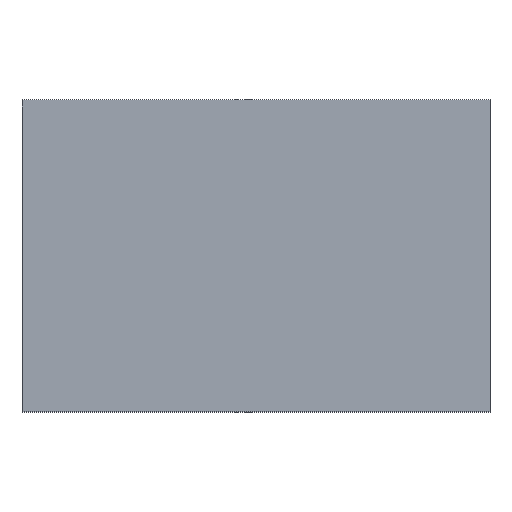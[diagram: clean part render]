
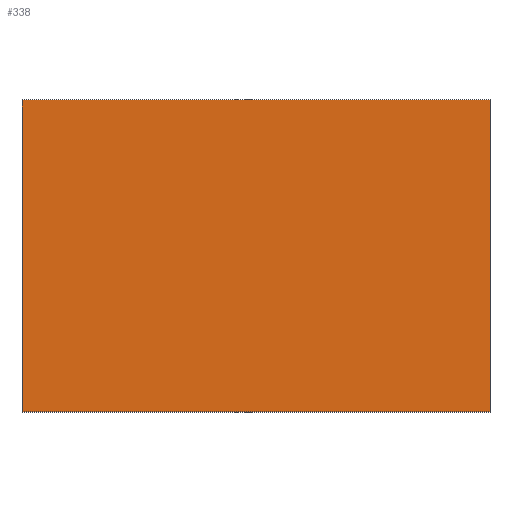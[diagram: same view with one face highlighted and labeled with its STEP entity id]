
A CAD part, top view. The second image highlights one B-rep face of the part: STEP entity #338.
In plain terms, the highlighted planar face has unit normal (0, 0, 1).
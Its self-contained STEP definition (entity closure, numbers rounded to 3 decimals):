
#24 = VERTEX_POINT('',#25);
#25 = CARTESIAN_POINT('',(-8.,-10.,15.6));
#32 = PLANE('',#33);
#33 = AXIS2_PLACEMENT_3D('',#34,#35,#36);
#34 = CARTESIAN_POINT('',(-8.,-10.,14.));
#35 = DIRECTION('',(1.,0.,0.));
#36 = DIRECTION('',(0.,0.,1.));
#44 = PLANE('',#45);
#45 = AXIS2_PLACEMENT_3D('',#46,#47,#48);
#46 = CARTESIAN_POINT('',(-8.,-10.,14.));
#47 = DIRECTION('',(0.,1.,0.));
#48 = DIRECTION('',(0.,0.,1.));
#85 = VERTEX_POINT('',#86);
#86 = CARTESIAN_POINT('',(-8.,10.,15.6));
#100 = PLANE('',#101);
#101 = AXIS2_PLACEMENT_3D('',#102,#103,#104);
#102 = CARTESIAN_POINT('',(-8.,10.,14.));
#103 = DIRECTION('',(0.,1.,0.));
#104 = DIRECTION('',(0.,0.,1.));
#112 = EDGE_CURVE('',#24,#85,#113,.T.);
#113 = SURFACE_CURVE('',#114,(#118,#125),.PCURVE_S1.);
#114 = LINE('',#115,#116);
#115 = CARTESIAN_POINT('',(-8.,-10.,15.6));
#116 = VECTOR('',#117,1.);
#117 = DIRECTION('',(0.,1.,0.));
#118 = PCURVE('',#32,#119);
#119 = DEFINITIONAL_REPRESENTATION('',(#120),#124);
#120 = LINE('',#121,#122);
#121 = CARTESIAN_POINT('',(1.6,0.));
#122 = VECTOR('',#123,1.);
#123 = DIRECTION('',(0.,-1.));
#124 = ( GEOMETRIC_REPRESENTATION_CONTEXT(2) 
PARAMETRIC_REPRESENTATION_CONTEXT() REPRESENTATION_CONTEXT('2D SPACE',''
  ) );
#125 = PCURVE('',#126,#131);
#126 = PLANE('',#127);
#127 = AXIS2_PLACEMENT_3D('',#128,#129,#130);
#128 = CARTESIAN_POINT('',(-8.,-10.,15.6));
#129 = DIRECTION('',(0.,0.,1.));
#130 = DIRECTION('',(1.,0.,0.));
#131 = DEFINITIONAL_REPRESENTATION('',(#132),#136);
#132 = LINE('',#133,#134);
#133 = CARTESIAN_POINT('',(0.,0.));
#134 = VECTOR('',#135,1.);
#135 = DIRECTION('',(0.,1.));
#136 = ( GEOMETRIC_REPRESENTATION_CONTEXT(2) 
PARAMETRIC_REPRESENTATION_CONTEXT() REPRESENTATION_CONTEXT('2D SPACE',''
  ) );
#144 = VERTEX_POINT('',#145);
#145 = CARTESIAN_POINT('',(22.,-10.,15.6));
#152 = PLANE('',#153);
#153 = AXIS2_PLACEMENT_3D('',#154,#155,#156);
#154 = CARTESIAN_POINT('',(22.,-10.,14.));
#155 = DIRECTION('',(1.,0.,0.));
#156 = DIRECTION('',(0.,0.,1.));
#195 = VERTEX_POINT('',#196);
#196 = CARTESIAN_POINT('',(22.,10.,15.6));
#217 = EDGE_CURVE('',#144,#195,#218,.T.);
#218 = SURFACE_CURVE('',#219,(#223,#230),.PCURVE_S1.);
#219 = LINE('',#220,#221);
#220 = CARTESIAN_POINT('',(22.,-10.,15.6));
#221 = VECTOR('',#222,1.);
#222 = DIRECTION('',(0.,1.,0.));
#223 = PCURVE('',#152,#224);
#224 = DEFINITIONAL_REPRESENTATION('',(#225),#229);
#225 = LINE('',#226,#227);
#226 = CARTESIAN_POINT('',(1.6,0.));
#227 = VECTOR('',#228,1.);
#228 = DIRECTION('',(0.,-1.));
#229 = ( GEOMETRIC_REPRESENTATION_CONTEXT(2) 
PARAMETRIC_REPRESENTATION_CONTEXT() REPRESENTATION_CONTEXT('2D SPACE',''
  ) );
#230 = PCURVE('',#126,#231);
#231 = DEFINITIONAL_REPRESENTATION('',(#232),#236);
#232 = LINE('',#233,#234);
#233 = CARTESIAN_POINT('',(30.,0.));
#234 = VECTOR('',#235,1.);
#235 = DIRECTION('',(0.,1.));
#236 = ( GEOMETRIC_REPRESENTATION_CONTEXT(2) 
PARAMETRIC_REPRESENTATION_CONTEXT() REPRESENTATION_CONTEXT('2D SPACE',''
  ) );
#263 = EDGE_CURVE('',#24,#144,#264,.T.);
#264 = SURFACE_CURVE('',#265,(#269,#276),.PCURVE_S1.);
#265 = LINE('',#266,#267);
#266 = CARTESIAN_POINT('',(-8.,-10.,15.6));
#267 = VECTOR('',#268,1.);
#268 = DIRECTION('',(1.,0.,0.));
#269 = PCURVE('',#44,#270);
#270 = DEFINITIONAL_REPRESENTATION('',(#271),#275);
#271 = LINE('',#272,#273);
#272 = CARTESIAN_POINT('',(1.6,0.));
#273 = VECTOR('',#274,1.);
#274 = DIRECTION('',(0.,1.));
#275 = ( GEOMETRIC_REPRESENTATION_CONTEXT(2) 
PARAMETRIC_REPRESENTATION_CONTEXT() REPRESENTATION_CONTEXT('2D SPACE',''
  ) );
#276 = PCURVE('',#126,#277);
#277 = DEFINITIONAL_REPRESENTATION('',(#278),#282);
#278 = LINE('',#279,#280);
#279 = CARTESIAN_POINT('',(0.,0.));
#280 = VECTOR('',#281,1.);
#281 = DIRECTION('',(1.,0.));
#282 = ( GEOMETRIC_REPRESENTATION_CONTEXT(2) 
PARAMETRIC_REPRESENTATION_CONTEXT() REPRESENTATION_CONTEXT('2D SPACE',''
  ) );
#310 = EDGE_CURVE('',#85,#195,#311,.T.);
#311 = SURFACE_CURVE('',#312,(#316,#323),.PCURVE_S1.);
#312 = LINE('',#313,#314);
#313 = CARTESIAN_POINT('',(-8.,10.,15.6));
#314 = VECTOR('',#315,1.);
#315 = DIRECTION('',(1.,0.,0.));
#316 = PCURVE('',#100,#317);
#317 = DEFINITIONAL_REPRESENTATION('',(#318),#322);
#318 = LINE('',#319,#320);
#319 = CARTESIAN_POINT('',(1.6,0.));
#320 = VECTOR('',#321,1.);
#321 = DIRECTION('',(0.,1.));
#322 = ( GEOMETRIC_REPRESENTATION_CONTEXT(2) 
PARAMETRIC_REPRESENTATION_CONTEXT() REPRESENTATION_CONTEXT('2D SPACE',''
  ) );
#323 = PCURVE('',#126,#324);
#324 = DEFINITIONAL_REPRESENTATION('',(#325),#329);
#325 = LINE('',#326,#327);
#326 = CARTESIAN_POINT('',(0.,20.));
#327 = VECTOR('',#328,1.);
#328 = DIRECTION('',(1.,0.));
#329 = ( GEOMETRIC_REPRESENTATION_CONTEXT(2) 
PARAMETRIC_REPRESENTATION_CONTEXT() REPRESENTATION_CONTEXT('2D SPACE',''
  ) );
#338 = ADVANCED_FACE('',(#339),#126,.T.);
#339 = FACE_BOUND('',#340,.T.);
#340 = EDGE_LOOP('',(#341,#342,#343,#344));
#341 = ORIENTED_EDGE('',*,*,#112,.F.);
#342 = ORIENTED_EDGE('',*,*,#263,.T.);
#343 = ORIENTED_EDGE('',*,*,#217,.T.);
#344 = ORIENTED_EDGE('',*,*,#310,.F.);
